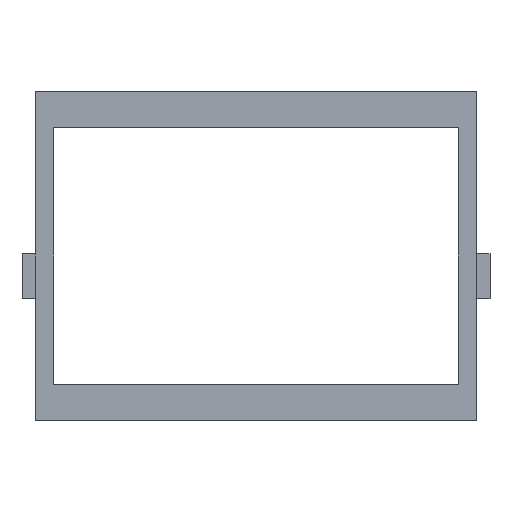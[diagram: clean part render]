
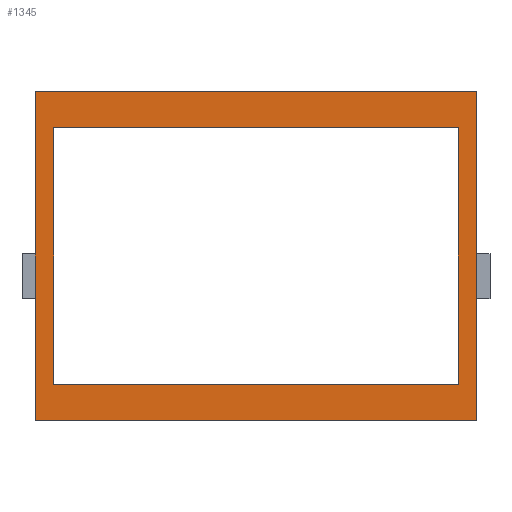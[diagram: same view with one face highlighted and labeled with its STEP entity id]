
A CAD part, front view. The second image highlights one B-rep face of the part: STEP entity #1345.
In plain terms, the highlighted planar face has unit normal (0, -1, 0).
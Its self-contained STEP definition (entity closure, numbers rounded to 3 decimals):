
#22 = VERTEX_POINT('',#23);
#23 = CARTESIAN_POINT('',(36.,80.4,86.));
#32 = PLANE('',#33);
#33 = AXIS2_PLACEMENT_3D('',#34,#35,#36);
#34 = CARTESIAN_POINT('',(36.,80.4,13.));
#35 = DIRECTION('',(1.,0.,0.));
#36 = DIRECTION('',(0.,0.,1.));
#44 = PLANE('',#45);
#45 = AXIS2_PLACEMENT_3D('',#46,#47,#48);
#46 = CARTESIAN_POINT('',(36.,80.4,86.));
#47 = DIRECTION('',(0.,0.,1.));
#48 = DIRECTION('',(1.,0.,0.));
#56 = EDGE_CURVE('',#57,#22,#59,.T.);
#57 = VERTEX_POINT('',#58);
#58 = CARTESIAN_POINT('',(36.,80.4,13.));
#59 = SURFACE_CURVE('',#60,(#64,#71),.PCURVE_S1.);
#60 = LINE('',#61,#62);
#61 = CARTESIAN_POINT('',(36.,80.4,13.));
#62 = VECTOR('',#63,1.);
#63 = DIRECTION('',(0.,0.,1.));
#64 = PCURVE('',#32,#65);
#65 = DEFINITIONAL_REPRESENTATION('',(#66),#70);
#66 = LINE('',#67,#68);
#67 = CARTESIAN_POINT('',(0.,0.));
#68 = VECTOR('',#69,1.);
#69 = DIRECTION('',(1.,0.));
#70 = ( GEOMETRIC_REPRESENTATION_CONTEXT(2) 
PARAMETRIC_REPRESENTATION_CONTEXT() REPRESENTATION_CONTEXT('2D SPACE',''
  ) );
#71 = PCURVE('',#72,#77);
#72 = PLANE('',#73);
#73 = AXIS2_PLACEMENT_3D('',#74,#75,#76);
#74 = CARTESIAN_POINT('',(36.,80.4,13.));
#75 = DIRECTION('',(0.,1.,0.));
#76 = DIRECTION('',(0.,0.,1.));
#77 = DEFINITIONAL_REPRESENTATION('',(#78),#82);
#78 = LINE('',#79,#80);
#79 = CARTESIAN_POINT('',(0.,0.));
#80 = VECTOR('',#81,1.);
#81 = DIRECTION('',(1.,0.));
#82 = ( GEOMETRIC_REPRESENTATION_CONTEXT(2) 
PARAMETRIC_REPRESENTATION_CONTEXT() REPRESENTATION_CONTEXT('2D SPACE',''
  ) );
#100 = PLANE('',#101);
#101 = AXIS2_PLACEMENT_3D('',#102,#103,#104);
#102 = CARTESIAN_POINT('',(36.,80.4,13.));
#103 = DIRECTION('',(0.,0.,1.));
#104 = DIRECTION('',(1.,0.,0.));
#243 = EDGE_CURVE('',#22,#244,#246,.T.);
#244 = VERTEX_POINT('',#245);
#245 = CARTESIAN_POINT('',(134.,80.4,86.));
#246 = SURFACE_CURVE('',#247,(#251,#258),.PCURVE_S1.);
#247 = LINE('',#248,#249);
#248 = CARTESIAN_POINT('',(36.,80.4,86.));
#249 = VECTOR('',#250,1.);
#250 = DIRECTION('',(1.,0.,0.));
#251 = PCURVE('',#44,#252);
#252 = DEFINITIONAL_REPRESENTATION('',(#253),#257);
#253 = LINE('',#254,#255);
#254 = CARTESIAN_POINT('',(0.,0.));
#255 = VECTOR('',#256,1.);
#256 = DIRECTION('',(1.,0.));
#257 = ( GEOMETRIC_REPRESENTATION_CONTEXT(2) 
PARAMETRIC_REPRESENTATION_CONTEXT() REPRESENTATION_CONTEXT('2D SPACE',''
  ) );
#258 = PCURVE('',#72,#259);
#259 = DEFINITIONAL_REPRESENTATION('',(#260),#264);
#260 = LINE('',#261,#262);
#261 = CARTESIAN_POINT('',(73.,0.));
#262 = VECTOR('',#263,1.);
#263 = DIRECTION('',(0.,1.));
#264 = ( GEOMETRIC_REPRESENTATION_CONTEXT(2) 
PARAMETRIC_REPRESENTATION_CONTEXT() REPRESENTATION_CONTEXT('2D SPACE',''
  ) );
#282 = PLANE('',#283);
#283 = AXIS2_PLACEMENT_3D('',#284,#285,#286);
#284 = CARTESIAN_POINT('',(134.,80.4,13.));
#285 = DIRECTION('',(1.,0.,0.));
#286 = DIRECTION('',(0.,0.,1.));
#767 = PLANE('',#768);
#768 = AXIS2_PLACEMENT_3D('',#769,#770,#771);
#769 = CARTESIAN_POINT('',(40.,80.3,78.));
#770 = DIRECTION('',(0.,0.,1.));
#771 = DIRECTION('',(1.,0.,0.));
#793 = PLANE('',#794);
#794 = AXIS2_PLACEMENT_3D('',#795,#796,#797);
#795 = CARTESIAN_POINT('',(40.,80.3,21.));
#796 = DIRECTION('',(1.,0.,0.));
#797 = DIRECTION('',(0.,0.,1.));
#819 = PLANE('',#820);
#820 = AXIS2_PLACEMENT_3D('',#821,#822,#823);
#821 = CARTESIAN_POINT('',(40.,80.3,21.));
#822 = DIRECTION('',(0.,0.,1.));
#823 = DIRECTION('',(1.,0.,0.));
#843 = PLANE('',#844);
#844 = AXIS2_PLACEMENT_3D('',#845,#846,#847);
#845 = CARTESIAN_POINT('',(130.,80.3,21.));
#846 = DIRECTION('',(1.,0.,0.));
#847 = DIRECTION('',(0.,0.,1.));
#1301 = EDGE_CURVE('',#57,#1302,#1304,.T.);
#1302 = VERTEX_POINT('',#1303);
#1303 = CARTESIAN_POINT('',(134.,80.4,13.));
#1304 = SURFACE_CURVE('',#1305,(#1309,#1316),.PCURVE_S1.);
#1305 = LINE('',#1306,#1307);
#1306 = CARTESIAN_POINT('',(36.,80.4,13.));
#1307 = VECTOR('',#1308,1.);
#1308 = DIRECTION('',(1.,0.,0.));
#1309 = PCURVE('',#100,#1310);
#1310 = DEFINITIONAL_REPRESENTATION('',(#1311),#1315);
#1311 = LINE('',#1312,#1313);
#1312 = CARTESIAN_POINT('',(0.,0.));
#1313 = VECTOR('',#1314,1.);
#1314 = DIRECTION('',(1.,0.));
#1315 = ( GEOMETRIC_REPRESENTATION_CONTEXT(2) 
PARAMETRIC_REPRESENTATION_CONTEXT() REPRESENTATION_CONTEXT('2D SPACE',''
  ) );
#1316 = PCURVE('',#72,#1317);
#1317 = DEFINITIONAL_REPRESENTATION('',(#1318),#1322);
#1318 = LINE('',#1319,#1320);
#1319 = CARTESIAN_POINT('',(0.,0.));
#1320 = VECTOR('',#1321,1.);
#1321 = DIRECTION('',(0.,1.));
#1322 = ( GEOMETRIC_REPRESENTATION_CONTEXT(2) 
PARAMETRIC_REPRESENTATION_CONTEXT() REPRESENTATION_CONTEXT('2D SPACE',''
  ) );
#1345 = ADVANCED_FACE('',(#1346,#1372),#72,.F.);
#1346 = FACE_BOUND('',#1347,.F.);
#1347 = EDGE_LOOP('',(#1348,#1349,#1350,#1351));
#1348 = ORIENTED_EDGE('',*,*,#1301,.F.);
#1349 = ORIENTED_EDGE('',*,*,#56,.T.);
#1350 = ORIENTED_EDGE('',*,*,#243,.T.);
#1351 = ORIENTED_EDGE('',*,*,#1352,.F.);
#1352 = EDGE_CURVE('',#1302,#244,#1353,.T.);
#1353 = SURFACE_CURVE('',#1354,(#1358,#1365),.PCURVE_S1.);
#1354 = LINE('',#1355,#1356);
#1355 = CARTESIAN_POINT('',(134.,80.4,13.));
#1356 = VECTOR('',#1357,1.);
#1357 = DIRECTION('',(0.,0.,1.));
#1358 = PCURVE('',#72,#1359);
#1359 = DEFINITIONAL_REPRESENTATION('',(#1360),#1364);
#1360 = LINE('',#1361,#1362);
#1361 = CARTESIAN_POINT('',(0.,98.));
#1362 = VECTOR('',#1363,1.);
#1363 = DIRECTION('',(1.,0.));
#1364 = ( GEOMETRIC_REPRESENTATION_CONTEXT(2) 
PARAMETRIC_REPRESENTATION_CONTEXT() REPRESENTATION_CONTEXT('2D SPACE',''
  ) );
#1365 = PCURVE('',#282,#1366);
#1366 = DEFINITIONAL_REPRESENTATION('',(#1367),#1371);
#1367 = LINE('',#1368,#1369);
#1368 = CARTESIAN_POINT('',(0.,0.));
#1369 = VECTOR('',#1370,1.);
#1370 = DIRECTION('',(1.,0.));
#1371 = ( GEOMETRIC_REPRESENTATION_CONTEXT(2) 
PARAMETRIC_REPRESENTATION_CONTEXT() REPRESENTATION_CONTEXT('2D SPACE',''
  ) );
#1372 = FACE_BOUND('',#1373,.F.);
#1373 = EDGE_LOOP('',(#1374,#1397,#1418,#1439));
#1374 = ORIENTED_EDGE('',*,*,#1375,.F.);
#1375 = EDGE_CURVE('',#1376,#1378,#1380,.T.);
#1376 = VERTEX_POINT('',#1377);
#1377 = CARTESIAN_POINT('',(40.,80.4,78.));
#1378 = VERTEX_POINT('',#1379);
#1379 = CARTESIAN_POINT('',(130.,80.4,78.));
#1380 = SURFACE_CURVE('',#1381,(#1385,#1391),.PCURVE_S1.);
#1381 = LINE('',#1382,#1383);
#1382 = CARTESIAN_POINT('',(38.,80.4,78.));
#1383 = VECTOR('',#1384,1.);
#1384 = DIRECTION('',(1.,0.,0.));
#1385 = PCURVE('',#72,#1386);
#1386 = DEFINITIONAL_REPRESENTATION('',(#1387),#1390);
#1387 = B_SPLINE_CURVE_WITH_KNOTS('',1,(#1388,#1389),.UNSPECIFIED.,.F.,
  .F.,(2,2),(2.,92.),.PIECEWISE_BEZIER_KNOTS.);
#1388 = CARTESIAN_POINT('',(65.,4.));
#1389 = CARTESIAN_POINT('',(65.,94.));
#1390 = ( GEOMETRIC_REPRESENTATION_CONTEXT(2) 
PARAMETRIC_REPRESENTATION_CONTEXT() REPRESENTATION_CONTEXT('2D SPACE',''
  ) );
#1391 = PCURVE('',#767,#1392);
#1392 = DEFINITIONAL_REPRESENTATION('',(#1393),#1396);
#1393 = B_SPLINE_CURVE_WITH_KNOTS('',1,(#1394,#1395),.UNSPECIFIED.,.F.,
  .F.,(2,2),(2.,92.),.PIECEWISE_BEZIER_KNOTS.);
#1394 = CARTESIAN_POINT('',(0.,0.1));
#1395 = CARTESIAN_POINT('',(90.,0.1));
#1396 = ( GEOMETRIC_REPRESENTATION_CONTEXT(2) 
PARAMETRIC_REPRESENTATION_CONTEXT() REPRESENTATION_CONTEXT('2D SPACE',''
  ) );
#1397 = ORIENTED_EDGE('',*,*,#1398,.T.);
#1398 = EDGE_CURVE('',#1376,#1399,#1401,.T.);
#1399 = VERTEX_POINT('',#1400);
#1400 = CARTESIAN_POINT('',(40.,80.4,21.));
#1401 = SURFACE_CURVE('',#1402,(#1406,#1412),.PCURVE_S1.);
#1402 = LINE('',#1403,#1404);
#1403 = CARTESIAN_POINT('',(40.,80.4,17.));
#1404 = VECTOR('',#1405,1.);
#1405 = DIRECTION('',(0.,0.,-1.));
#1406 = PCURVE('',#72,#1407);
#1407 = DEFINITIONAL_REPRESENTATION('',(#1408),#1411);
#1408 = B_SPLINE_CURVE_WITH_KNOTS('',1,(#1409,#1410),.UNSPECIFIED.,.F.,
  .F.,(2,2),(-61.,-4.),.PIECEWISE_BEZIER_KNOTS.);
#1409 = CARTESIAN_POINT('',(65.,4.));
#1410 = CARTESIAN_POINT('',(8.,4.));
#1411 = ( GEOMETRIC_REPRESENTATION_CONTEXT(2) 
PARAMETRIC_REPRESENTATION_CONTEXT() REPRESENTATION_CONTEXT('2D SPACE',''
  ) );
#1412 = PCURVE('',#793,#1413);
#1413 = DEFINITIONAL_REPRESENTATION('',(#1414),#1417);
#1414 = B_SPLINE_CURVE_WITH_KNOTS('',1,(#1415,#1416),.UNSPECIFIED.,.F.,
  .F.,(2,2),(-61.,-4.),.PIECEWISE_BEZIER_KNOTS.);
#1415 = CARTESIAN_POINT('',(57.,-0.1));
#1416 = CARTESIAN_POINT('',(0.,-0.1));
#1417 = ( GEOMETRIC_REPRESENTATION_CONTEXT(2) 
PARAMETRIC_REPRESENTATION_CONTEXT() REPRESENTATION_CONTEXT('2D SPACE',''
  ) );
#1418 = ORIENTED_EDGE('',*,*,#1419,.T.);
#1419 = EDGE_CURVE('',#1399,#1420,#1422,.T.);
#1420 = VERTEX_POINT('',#1421);
#1421 = CARTESIAN_POINT('',(130.,80.4,21.));
#1422 = SURFACE_CURVE('',#1423,(#1427,#1433),.PCURVE_S1.);
#1423 = LINE('',#1424,#1425);
#1424 = CARTESIAN_POINT('',(38.,80.4,21.));
#1425 = VECTOR('',#1426,1.);
#1426 = DIRECTION('',(1.,0.,0.));
#1427 = PCURVE('',#72,#1428);
#1428 = DEFINITIONAL_REPRESENTATION('',(#1429),#1432);
#1429 = B_SPLINE_CURVE_WITH_KNOTS('',1,(#1430,#1431),.UNSPECIFIED.,.F.,
  .F.,(2,2),(2.,92.),.PIECEWISE_BEZIER_KNOTS.);
#1430 = CARTESIAN_POINT('',(8.,4.));
#1431 = CARTESIAN_POINT('',(8.,94.));
#1432 = ( GEOMETRIC_REPRESENTATION_CONTEXT(2) 
PARAMETRIC_REPRESENTATION_CONTEXT() REPRESENTATION_CONTEXT('2D SPACE',''
  ) );
#1433 = PCURVE('',#819,#1434);
#1434 = DEFINITIONAL_REPRESENTATION('',(#1435),#1438);
#1435 = B_SPLINE_CURVE_WITH_KNOTS('',1,(#1436,#1437),.UNSPECIFIED.,.F.,
  .F.,(2,2),(2.,92.),.PIECEWISE_BEZIER_KNOTS.);
#1436 = CARTESIAN_POINT('',(0.,0.1));
#1437 = CARTESIAN_POINT('',(90.,0.1));
#1438 = ( GEOMETRIC_REPRESENTATION_CONTEXT(2) 
PARAMETRIC_REPRESENTATION_CONTEXT() REPRESENTATION_CONTEXT('2D SPACE',''
  ) );
#1439 = ORIENTED_EDGE('',*,*,#1440,.F.);
#1440 = EDGE_CURVE('',#1378,#1420,#1441,.T.);
#1441 = SURFACE_CURVE('',#1442,(#1446,#1452),.PCURVE_S1.);
#1442 = LINE('',#1443,#1444);
#1443 = CARTESIAN_POINT('',(130.,80.4,17.));
#1444 = VECTOR('',#1445,1.);
#1445 = DIRECTION('',(0.,0.,-1.));
#1446 = PCURVE('',#72,#1447);
#1447 = DEFINITIONAL_REPRESENTATION('',(#1448),#1451);
#1448 = B_SPLINE_CURVE_WITH_KNOTS('',1,(#1449,#1450),.UNSPECIFIED.,.F.,
  .F.,(2,2),(-61.,-4.),.PIECEWISE_BEZIER_KNOTS.);
#1449 = CARTESIAN_POINT('',(65.,94.));
#1450 = CARTESIAN_POINT('',(8.,94.));
#1451 = ( GEOMETRIC_REPRESENTATION_CONTEXT(2) 
PARAMETRIC_REPRESENTATION_CONTEXT() REPRESENTATION_CONTEXT('2D SPACE',''
  ) );
#1452 = PCURVE('',#843,#1453);
#1453 = DEFINITIONAL_REPRESENTATION('',(#1454),#1457);
#1454 = B_SPLINE_CURVE_WITH_KNOTS('',1,(#1455,#1456),.UNSPECIFIED.,.F.,
  .F.,(2,2),(-61.,-4.),.PIECEWISE_BEZIER_KNOTS.);
#1455 = CARTESIAN_POINT('',(57.,-0.1));
#1456 = CARTESIAN_POINT('',(0.,-0.1));
#1457 = ( GEOMETRIC_REPRESENTATION_CONTEXT(2) 
PARAMETRIC_REPRESENTATION_CONTEXT() REPRESENTATION_CONTEXT('2D SPACE',''
  ) );
